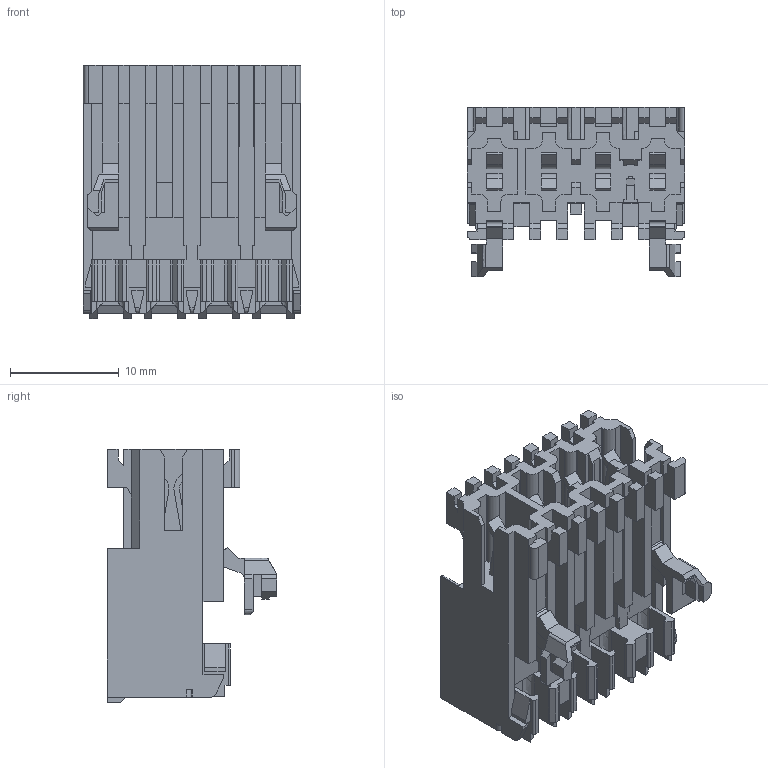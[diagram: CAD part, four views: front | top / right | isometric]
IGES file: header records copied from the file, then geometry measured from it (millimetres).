
Start section:  PTC IGES file: c-3-284484-2-b-3d.igs
Global section: file name: c-3-284484-2-b-3d.igs; native system: Creo Parametric by Parametric Technology Corporation; preprocessor: 2013050; author: workeradm; organization: Unknown; units: millimetre
Bounding box: 20 x 15.62 x 23.3 mm (x, y, z)
Surface area: 3651.3 mm2 (no closed solid volume)
Topology: 0 solids, 0 shells, 800 faces, 4616 edges, 4616 vertices
Faces by surface type: bspline 699, revolution 101
